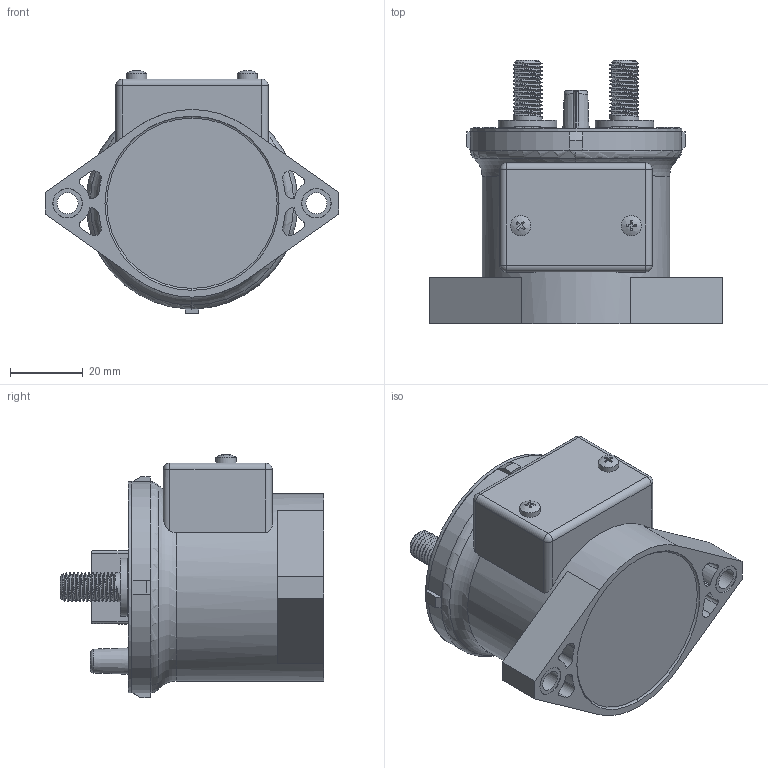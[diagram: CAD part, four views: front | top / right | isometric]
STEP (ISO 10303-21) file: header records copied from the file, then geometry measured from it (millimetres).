
FILE_DESCRIPTION( ( '' ), ' ' );
FILE_NAME( '/vol/tmp/translate-13808339434860994236/5edd6a706bb72c10add4f8d3.step', '2020-06-07T22:30:08', ( '' ), ( '' ), ' ', ' ', ' ' );
FILE_SCHEMA( ( 'AUTOMOTIVE_DESIGN { 1 0 10303 214 1 1 1 1 }' ) );
Length unit declared in the file: metre
Products named in the file (8): Assem1; 6; 7; 2; 3; 1; 4; 5
Assembly tree (9 placements, depth 2):
  Assem1
    6  x2
    7  x2
    2
    3
    1
    4
    5
Bounding box: 80.68 x 72.56 x 66.95 mm (x, y, z)
Volume: 41160.5 mm3; surface area: 42505.5 mm2
Topology: 9 solids, 9 shells, 1264 faces, 3621 edges, 2409 vertices
Faces by surface type: plane 812, cylinder 344, torus 66, cone 19, extrusion 8, bspline 6, sphere 6, revolution 3
Full cylindrical faces by diameter (mm): 2.49 x2, 2.9 x2, 2.92 x1, 3.3 x2, 4.8 x1, 5.6 x2, 5.79 x2, 6.1 x2, 6.86 x2, 7.87 x2, 8 x26, 8.05 x4, 8.1 x2, 8.18 x2, 10.92 x2, 12.7 x2, 15.16 x2, 15.88 x2, 16.05 x2, 16.51 x2, 47.9 x1, 51.635 x1, 55.6 x1, 58.19 x1
Entity records: 29116 total; most frequent: CARTESIAN_POINT 7842, DIRECTION 4506, ORIENTED_EDGE 4446, EDGE_CURVE 2223, AXIS2_PLACEMENT_3D 1610, VERTEX_POINT 1504, VECTOR 1283, LINE 1275
